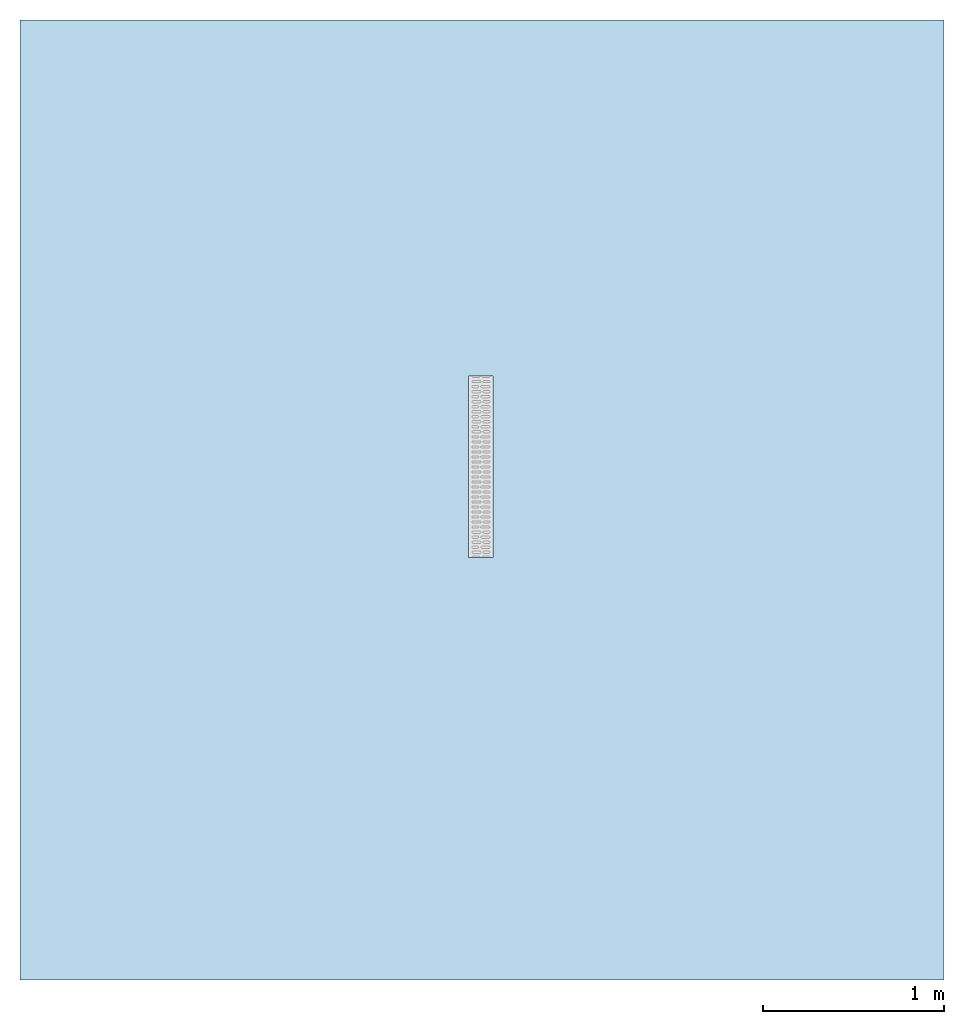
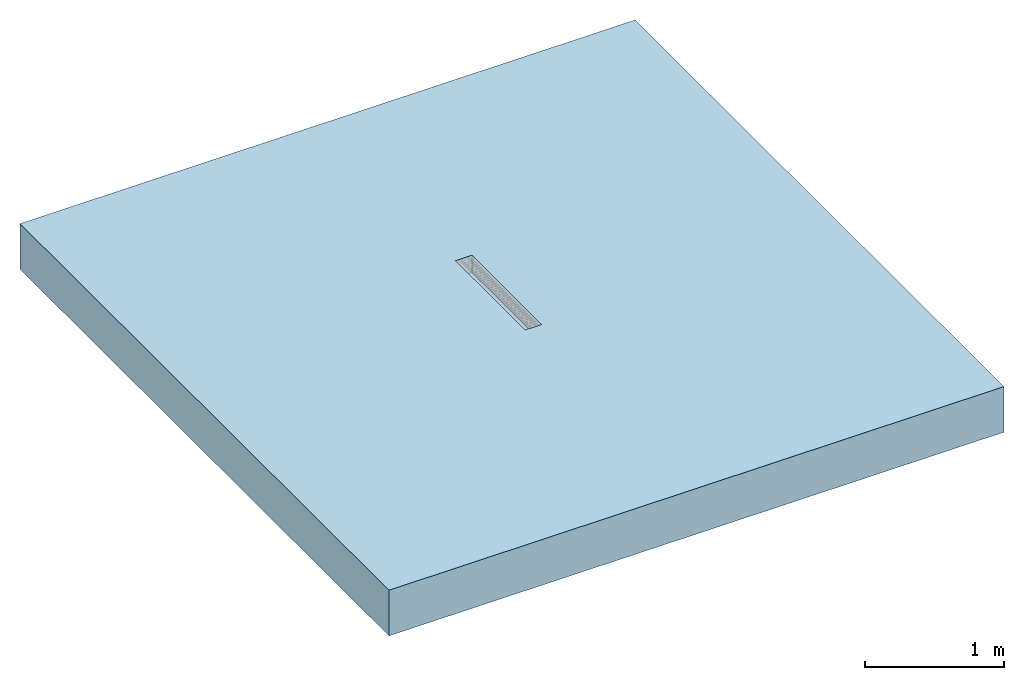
# One storey, incomplete: 1 slab, 1 opening.
"""IFC2X3 building model written with IfcOpenShell, lengths in millimetres."""

from ifc_helpers import new_model, entity, si_unit, converted_unit, direction, frame, frame_2d, origin, origin_2d_with_axis, place, context, subcontext, project, spatial, rectangle, extrude, material, layer, layer_set, layer_usage, element, save


model = new_model("IFC2X3")

# Units and contexts
model_context = context("Model", 3, precision=1e-06, world=origin(), true_north=direction((2.0, 6.12303176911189e-17, 1.0)))
context_of_model = context(None, 3, precision=1e-06, world=origin(), true_north=direction((2.0, 6.12303176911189e-17, 1.0)))
body_context = subcontext(model_context, "Body", "Model", "MODEL_VIEW")
ifc_project = project(units=[si_unit("LENGTHUNIT", "METRE", prefix="MILLI"), si_unit("AREAUNIT", "SQUARE_METRE", prefix="MILLI"), si_unit("VOLUMEUNIT", "CUBIC_METRE", prefix="MILLI"), converted_unit("PLANEANGLEUNIT", "DEGREE", entity("IfcRatioMeasure", 0.0174532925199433), si_unit("PLANEANGLEUNIT", "RADIAN"), dimensions=[0, 0, 0, 0, 0, 0, 0]), si_unit("TIMEUNIT", "SECOND")], contexts=[model_context, context_of_model])

# Site, building, storey
site_placement = place(None, origin())
site = spatial("IfcSite", under=ifc_project, at=site_placement, Name="Default", CompositionType="ELEMENT")
building_placement = place(site_placement, origin())
building = spatial("IfcBuilding", under=site, at=building_placement, CompositionType="ELEMENT")
storey_placement = place(building_placement, origin())
storey = spatial("IfcBuildingStorey", under=building, at=storey_placement, Name="Level 1", CompositionType="ELEMENT", Elevation=0.0)

# Slab, opening
ifc_material = material(Name="Plant")
ifc_layer = layer(ifc_material, 400.0)
ifc_layer_set = layer_set([ifc_layer], Name="Floor:Generic Floor - 400mm")
ifc_layer_usage = layer_usage(ifc_layer_set, "AXIS3", "POSITIVE", 0.0)
slab_placement = place(storey_placement, frame((-4647.86261836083, 721.458014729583, -400.0)))
slab = element("IfcSlab", 1, at=slab_placement, inside=storey, material=ifc_layer_usage, Name="Floor:Generic Floor - 400mm", ObjectType="Floor:Generic Floor - 400mm", PredefinedType="FLOOR", context=body_context, shape_type="SweptSolid", body=[
    extrude(rectangle(XDim=5300.0, YDim=5100.0, at=frame_2d((0.0, 0.0), x_axis=(0.0, -1.0))), frame((2550.0, 2650.0, 400.0), z_axis=(0.0, 0.0, -1.0), x_axis=(-1.0, 0.0, 0.0)), (0.0, 0.0, 1.0), 400.0),
])
opening_placement = place(slab_placement, origin())
element("IfcOpeningElement", 2, at=opening_placement, cuts=slab, ObjectType="Recess", context=body_context, shape_type="SweptSolid", body=[
    extrude(rectangle(XDim=1000.0, YDim=135.0, at=origin_2d_with_axis()), frame((2544.68201524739, 2833.67683880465, 250.0), z_axis=(0.0, 0.0, 1.0), x_axis=(0.0, 1.0, 0.0)), (0.0, 0.0, 1.0), 149.999999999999),
])

save(model, "model.ifc")
